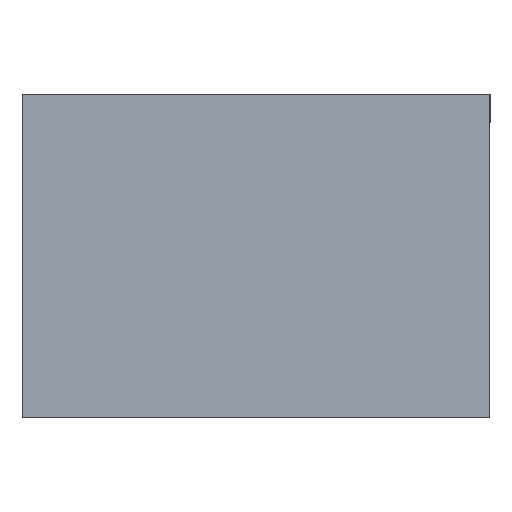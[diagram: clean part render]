
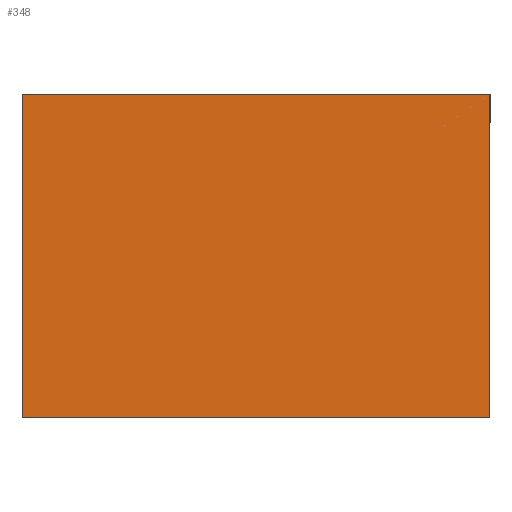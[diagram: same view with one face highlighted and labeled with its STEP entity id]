
A CAD part, front view. The second image highlights one B-rep face of the part: STEP entity #348.
In plain terms, the highlighted planar face has unit normal (0, -1, 0).
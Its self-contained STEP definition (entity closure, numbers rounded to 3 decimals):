
#83 = VERTEX_POINT ( 'NONE', #2261 ) ;
#116 = CARTESIAN_POINT ( 'NONE',  ( -32.5, 0., 22.5 ) ) ;
#160 = ORIENTED_EDGE ( 'NONE', *, *, #2514, .F. ) ;
#348 = ADVANCED_FACE ( 'NONE', ( #1161 ), #1931, .F. ) ;
#355 = DIRECTION ( 'NONE',  ( 1., 0., 0. ) ) ;
#545 = CARTESIAN_POINT ( 'NONE',  ( -32.5, 0., -22.5 ) ) ;
#553 = CARTESIAN_POINT ( 'NONE',  ( 32.5, 0., -22.5 ) ) ;
#621 = VECTOR ( 'NONE', #2124, 1000. ) ;
#705 = LINE ( 'NONE', #2289, #2192 ) ;
#760 = DIRECTION ( 'NONE',  ( 0., 0., -1. ) ) ;
#776 = DIRECTION ( 'NONE',  ( 0., 1., 0. ) ) ;
#825 = CARTESIAN_POINT ( 'NONE',  ( 32.5, 0., 22.5 ) ) ;
#868 = ORIENTED_EDGE ( 'NONE', *, *, #2485, .F. ) ;
#870 = LINE ( 'NONE', #553, #1825 ) ;
#1049 = VERTEX_POINT ( 'NONE', #825 ) ;
#1161 = FACE_OUTER_BOUND ( 'NONE', #2440, .T. ) ;
#1231 = ORIENTED_EDGE ( 'NONE', *, *, #2362, .F. ) ;
#1359 = VECTOR ( 'NONE', #355, 1000. ) ;
#1381 = AXIS2_PLACEMENT_3D ( 'NONE', #2423, #776, #2128 ) ;
#1692 = CARTESIAN_POINT ( 'NONE',  ( -32.5, 0., 22.5 ) ) ;
#1715 = VERTEX_POINT ( 'NONE', #116 ) ;
#1825 = VECTOR ( 'NONE', #760, 1000. ) ;
#1872 = LINE ( 'NONE', #1692, #1359 ) ;
#1925 = CARTESIAN_POINT ( 'NONE',  ( -32.5, 0., -22.5 ) ) ;
#1931 = PLANE ( 'NONE',  #1381 ) ;
#1998 = ORIENTED_EDGE ( 'NONE', *, *, #2471, .F. ) ;
#2083 = DIRECTION ( 'NONE',  ( -1., 0., 0. ) ) ;
#2124 = DIRECTION ( 'NONE',  ( 0., 0., 1. ) ) ;
#2128 = DIRECTION ( 'NONE',  ( 0., 0., 1. ) ) ;
#2173 = LINE ( 'NONE', #1925, #621 ) ;
#2192 = VECTOR ( 'NONE', #2083, 1000. ) ;
#2261 = CARTESIAN_POINT ( 'NONE',  ( 32.5, 0., -22.5 ) ) ;
#2289 = CARTESIAN_POINT ( 'NONE',  ( -32.5, 0., -22.5 ) ) ;
#2362 = EDGE_CURVE ( 'NONE', #83, #2474, #705, .T. ) ;
#2423 = CARTESIAN_POINT ( 'NONE',  ( 0., 0., 0. ) ) ;
#2440 = EDGE_LOOP ( 'NONE', ( #868, #1998, #160, #1231 ) ) ;
#2471 = EDGE_CURVE ( 'NONE', #1715, #1049, #1872, .T. ) ;
#2474 = VERTEX_POINT ( 'NONE', #545 ) ;
#2485 = EDGE_CURVE ( 'NONE', #1049, #83, #870, .T. ) ;
#2514 = EDGE_CURVE ( 'NONE', #2474, #1715, #2173, .T. ) ;
